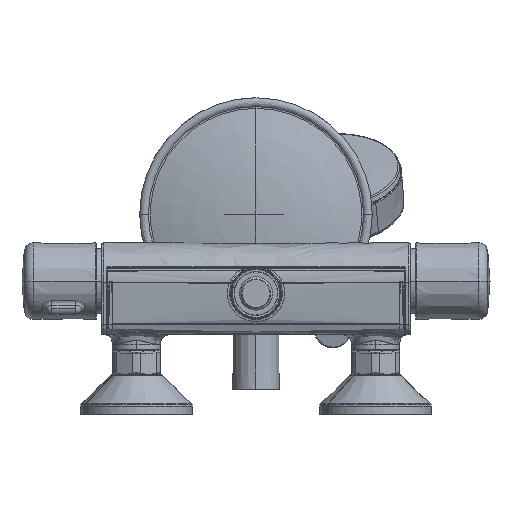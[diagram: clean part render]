
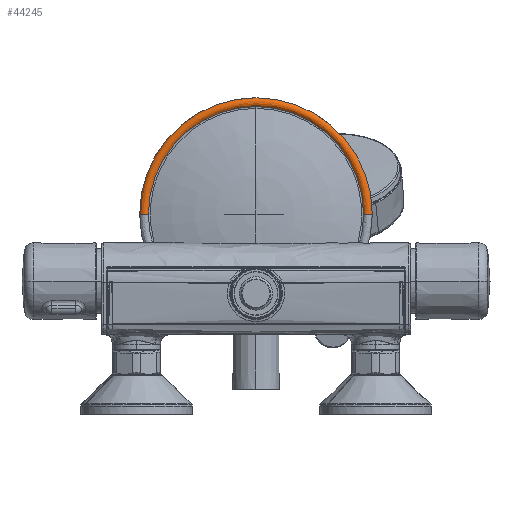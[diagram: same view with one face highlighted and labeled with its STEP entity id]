
A CAD part, front view. The second image highlights one B-rep face of the part: STEP entity #44245.
In plain terms, the highlighted free-form (B-spline) face has degree [3, 3] with [4, 4] control points.
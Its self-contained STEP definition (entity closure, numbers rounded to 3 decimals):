
#57 = ORIENTED_EDGE ( 'NONE', *, *, #25555, .T. ) ;
#894 = AXIS2_PLACEMENT_3D ( 'NONE', #53721, #49489, #2214 ) ;
#1941 = CIRCLE ( 'NONE', #35836, 67.508 ) ;
#2214 = DIRECTION ( 'NONE',  ( -1., 0., 0. ) ) ;
#2950 = CARTESIAN_POINT ( 'NONE',  ( 53., -223.178, 195.8 ) ) ;
#3834 = CARTESIAN_POINT ( 'NONE',  ( -20., -221.218, 49.8 ) ) ;
#5138 = CARTESIAN_POINT ( 'NONE',  ( -20.1, -221.218, 117.308 ) ) ;
#6447 = CARTESIAN_POINT ( 'NONE',  ( -87.508, -221.218, 49.8 ) ) ;
#6538 = EDGE_CURVE ( 'NONE', #34789, #11717, #1941, .T. ) ;
#8672 = DIRECTION ( 'NONE',  ( -0.001, 0., 1. ) ) ;
#9835 = DIRECTION ( 'NONE',  ( -0.001, 0., 1. ) ) ;
#10191 = ORIENTED_EDGE ( 'NONE', *, *, #11193, .T. ) ;
#11193 = EDGE_CURVE ( 'NONE', #33623, #14815, #20271, .T. ) ;
#11717 = VERTEX_POINT ( 'NONE', #35408 ) ;
#11795 = ORIENTED_EDGE ( 'NONE', *, *, #17967, .F. ) ;
#12652 = CARTESIAN_POINT ( 'NONE',  ( -93., -223.178, 49.8 ) ) ;
#14815 = VERTEX_POINT ( 'NONE', #22870 ) ;
#16524 = AXIS2_PLACEMENT_3D ( 'NONE', #51845, #43046, #52445 ) ;
#17190 = CARTESIAN_POINT ( 'NONE',  ( 53., -219.549, 195.8 ) ) ;
#17967 = EDGE_CURVE ( 'NONE', #47810, #14815, #36876, .T. ) ;
#18842 = EDGE_LOOP ( 'NONE', ( #57, #19417, #42560, #10191, #11795 ) ) ;
#19417 = ORIENTED_EDGE ( 'NONE', *, *, #6538, .T. ) ;
#20271 = CIRCLE ( 'NONE', #894, 73. ) ;
#20508 = EDGE_CURVE ( 'NONE', #11717, #33623, #56542, .T. ) ;
#22067 = CARTESIAN_POINT ( 'NONE',  ( 47.508, -221.218, 49.8 ) ) ;
#22870 = CARTESIAN_POINT ( 'NONE',  ( -93., -219.549, 49.8 ) ) ;
#25555 = EDGE_CURVE ( 'NONE', #47810, #34789, #58057, .T. ) ;
#26613 = FACE_OUTER_BOUND ( 'NONE', #18842, .T. ) ;
#27206 = CARTESIAN_POINT ( 'NONE',  ( -87.508, -221.218, 49.8 ) ) ;
#28493 = AXIS2_PLACEMENT_3D ( 'NONE', #48932, #45285, #58330 ) ;
#31154 = CARTESIAN_POINT ( 'NONE',  ( -87.508, -221.218, 184.815 ) ) ;
#33623 = VERTEX_POINT ( 'NONE', #52962 ) ;
#33882 = AXIS2_PLACEMENT_3D ( 'NONE', #51367, #41669, #9835 ) ;
#34789 = VERTEX_POINT ( 'NONE', #5138 ) ;
#35394 = CARTESIAN_POINT ( 'NONE',  ( 53., -219.549, 49.8 ) ) ;
#35408 = CARTESIAN_POINT ( 'NONE',  ( 47.508, -221.218, 49.8 ) ) ;
#35836 = AXIS2_PLACEMENT_3D ( 'NONE', #3834, #54153, #8672 ) ;
#36295 = CARTESIAN_POINT ( 'NONE',  ( 49.528, -224.233, 188.855 ) ) ;
#36876 = CIRCLE ( 'NONE', #16524, 3. ) ;
#40552 = CARTESIAN_POINT ( 'NONE',  ( -89.528, -224.233, 188.855 ) ) ;
#40851 = CARTESIAN_POINT ( 'NONE',  ( 49.528, -224.233, 49.8 ) ) ;
#41669 = DIRECTION ( 'NONE',  ( 0., 1., 0. ) ) ;
#42560 = ORIENTED_EDGE ( 'NONE', *, *, #20508, .T. ) ;
#43046 = DIRECTION ( 'NONE',  ( 0., 0., -1. ) ) ;
#44245 = ADVANCED_FACE ( 'NONE', ( #26613 ), #57703, .T. ) ;
#44789 = CARTESIAN_POINT ( 'NONE',  ( 47.508, -221.218, 184.815 ) ) ;
#45093 = CARTESIAN_POINT ( 'NONE',  ( -93., -223.178, 195.8 ) ) ;
#45285 = DIRECTION ( 'NONE',  ( 0., 0., 1. ) ) ;
#47810 = VERTEX_POINT ( 'NONE', #6447 ) ;
#48932 = CARTESIAN_POINT ( 'NONE',  ( 50., -219.549, 49.8 ) ) ;
#49332 = CARTESIAN_POINT ( 'NONE',  ( -89.528, -224.233, 49.8 ) ) ;
#49489 = DIRECTION ( 'NONE',  ( 0., -1., 0. ) ) ;
#51367 = CARTESIAN_POINT ( 'NONE',  ( -20., -221.218, 49.8 ) ) ;
#51845 = CARTESIAN_POINT ( 'NONE',  ( -90., -219.549, 49.8 ) ) ;
#52445 = DIRECTION ( 'NONE',  ( -1., 0., 0. ) ) ;
#52962 = CARTESIAN_POINT ( 'NONE',  ( 53., -219.549, 49.8 ) ) ;
#53721 = CARTESIAN_POINT ( 'NONE',  ( -20., -219.549, 49.8 ) ) ;
#54153 = DIRECTION ( 'NONE',  ( 0., 1., 0. ) ) ;
#55062 = CARTESIAN_POINT ( 'NONE',  ( -93., -219.549, 49.8 ) ) ;
#56542 = CIRCLE ( 'NONE', #28493, 3. ) ;
#57703 =( BOUNDED_SURFACE ( )  B_SPLINE_SURFACE ( 3, 3, ( 
 ( #22067, #44789, #31154, #27206 ),
 ( #40851, #36295, #40552, #49332 ),
 ( #58728, #2950, #45093, #12652 ),
 ( #35394, #17190, #58434, #55062 ) ),
 .UNSPECIFIED., .F., .F., .T. ) 
 B_SPLINE_SURFACE_WITH_KNOTS ( ( 4, 4 ),
 ( 4, 4 ),
 ( 0., 1. ),
 ( 0., 1. ),
 .UNSPECIFIED. ) 
 GEOMETRIC_REPRESENTATION_ITEM ( )  RATIONAL_B_SPLINE_SURFACE ( (
 ( 1., 0.333, 0.333, 1.),
 ( 0.527, 0.176, 0.176, 0.527),
 ( 0.527, 0.176, 0.176, 0.527),
 ( 1., 0.333, 0.333, 1.) ) ) 
 REPRESENTATION_ITEM ( '' )  SURFACE ( )  );
#58057 = CIRCLE ( 'NONE', #33882, 67.508 ) ;
#58330 = DIRECTION ( 'NONE',  ( 1., 0., 0. ) ) ;
#58434 = CARTESIAN_POINT ( 'NONE',  ( -93., -219.549, 195.8 ) ) ;
#58728 = CARTESIAN_POINT ( 'NONE',  ( 53., -223.178, 49.8 ) ) ;
